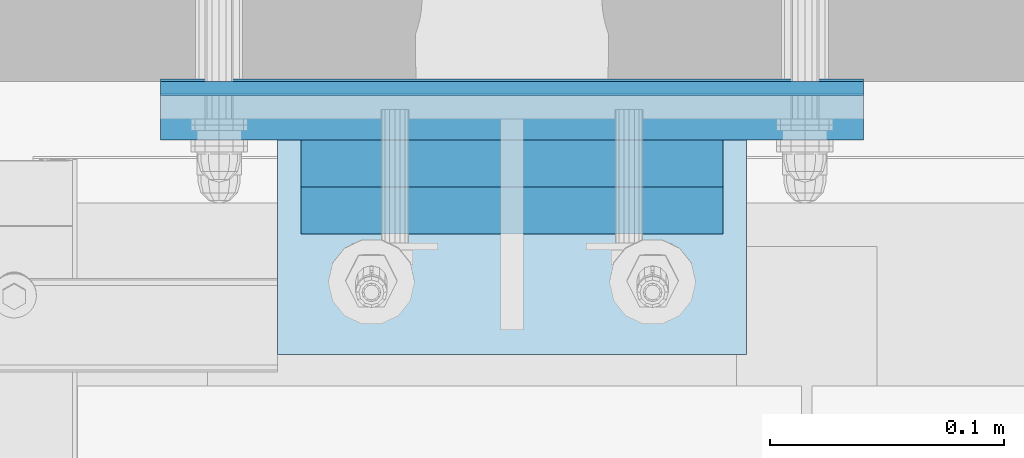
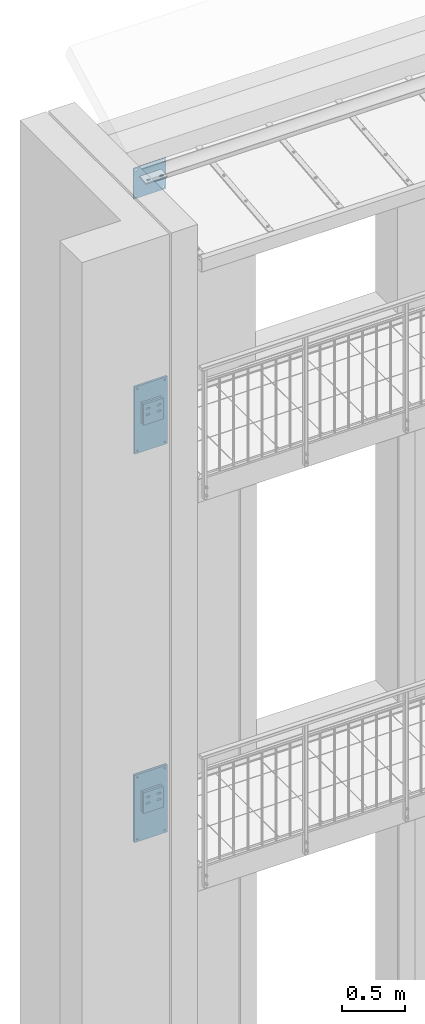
# One storey, part 60 of 162: 9 plates, 46 openings.
"""IFC2X3 building model written with IfcOpenShell, lengths in millimetres."""

from ifc_helpers import new_model, entity, si_unit, converted_unit, point, frame, frame_2d, origin, origin_with_axes, place, context, project, spatial, polyline, circle_curve, line_curve, trimmed, segment, composite_curve, circle, outline, extrude, material, layer, layer_set, element, save


model = new_model("IFC2X3")

# Units and contexts
model_context = context("Model", 3, precision=1e-09, world=origin_with_axes())
ifc_project = project(units=[si_unit("LENGTHUNIT", "METRE", prefix="MILLI"), si_unit("AREAUNIT", "SQUARE_METRE"), si_unit("VOLUMEUNIT", "CUBIC_METRE"), converted_unit("PLANEANGLEUNIT", "DEGREE", entity("IfcPlaneAngleMeasure", 0.01745329), si_unit("PLANEANGLEUNIT", "RADIAN"), dimensions=[0, 0, 0, 0, 0, 0, 0])], contexts=[model_context])

# Site, building, storey
site_placement = place(None, origin_with_axes())
site = spatial("IfcSite", under=ifc_project, at=site_placement, Name="Hermannstra?e 1a, 60318 Frankfurt", CompositionType="ELEMENT")
building_placement = place(site_placement, origin_with_axes())
building = spatial("IfcBuilding", under=site, at=building_placement, Name="Struktur 1", CompositionType="ELEMENT")
storey_placement = place(building_placement, origin_with_axes())
storey = spatial("IfcBuildingStorey", under=building, at=storey_placement, Name="Default Storey", CompositionType="ELEMENT", Elevation=0.0)

# Plate, openings
ifc_material_1 = material(Name="Thermostop")
ifc_layer_1 = layer(ifc_material_1, 6.0)
ifc_layer_set_1 = layer_set([ifc_layer_1], Name="Thermostop")
plate_1_placement = place(None, frame((2803.309364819, 2735.609373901, 17341.999), z_axis=(0.0, -1.0, 0.0), x_axis=(1.0, 0.0, 0.0)))
plate_1 = element("IfcPlate", 1, at=plate_1_placement, inside=storey, material=ifc_layer_set_1, Name="-", ObjectType="-", context=model_context, shape_type="SweptSolid", body=[
    extrude(outline(polyline([(-150.0, -150.0), (150.0, -150.0), (150.0, 150.0), (-150.0, 150.0), (-150.0, -150.0)])), origin_with_axes(), (0.0, 0.0, 1.0), 6.0),
])
opening_1_placement = place(plate_1_placement, frame((0.0, 0.0, -0.5), z_axis=(0.0, 0.0, 1.0), x_axis=(1.0, 0.0, 0.0)))
element("IfcOpeningElement", 2, at=opening_1_placement, cuts=plate_1, ObjectType="Opening", context=model_context, shape_type="SweptSolid", body=[
    extrude(circle(Radius=10.001, at=frame_2d((125.0, 125.0), x_axis=(1.0, 0.0))), origin(), (0.0, 0.0, 1.0), 7.0),
])
opening_2_placement = place(plate_1_placement, frame((0.0, 0.0, -0.5), z_axis=(0.0, 0.0, 1.0), x_axis=(1.0, 0.0, 0.0)))
element("IfcOpeningElement", 3, at=opening_2_placement, cuts=plate_1, ObjectType="Opening", context=model_context, shape_type="SweptSolid", body=[
    extrude(circle(Radius=10.001, at=frame_2d((-125.0, 125.0), x_axis=(1.0, 0.0))), origin(), (0.0, 0.0, 1.0), 7.0),
])
opening_3_placement = place(plate_1_placement, frame((0.0, 0.0, -0.5), z_axis=(0.0, 0.0, 1.0), x_axis=(1.0, 0.0, 0.0)))
element("IfcOpeningElement", 4, at=opening_3_placement, cuts=plate_1, ObjectType="Opening", context=model_context, shape_type="SweptSolid", body=[
    extrude(circle(Radius=10.001, at=frame_2d((125.0, -125.0), x_axis=(1.0, 0.0))), origin(), (0.0, 0.0, 1.0), 7.0),
])
opening_4_placement = place(plate_1_placement, frame((0.0, 0.0, -0.5), z_axis=(0.0, 0.0, 1.0), x_axis=(1.0, 0.0, 0.0)))
element("IfcOpeningElement", 5, at=opening_4_placement, cuts=plate_1, ObjectType="Opening", context=model_context, shape_type="SweptSolid", body=[
    extrude(circle(Radius=10.001, at=frame_2d((-125.0, -125.0), x_axis=(1.0, 0.0))), origin(), (0.0, 0.0, 1.0), 7.0),
])

ifc_material_2 = material(Name="S235JR")
ifc_layer_2 = layer(ifc_material_2, 10.0)
ifc_layer_set_2 = layer_set([ifc_layer_2], Name="S235JR")
plate_2_placement = place(None, frame((2803.309364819, 2669.883279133, 17390.856674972), z_axis=(0.0, -0.104528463, 0.994521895), x_axis=(1.0, 0.0, 0.0)))
plate_2 = element("IfcPlate", 6, at=plate_2_placement, inside=storey, material=ifc_layer_set_2, Name="-", ObjectType="-", context=model_context, shape_type="SweptSolid", body=[
    extrude(outline(polyline([(-100.0, -50.0), (100.0, -50.0), (100.0, 50.0), (-100.0, 50.0), (-100.0, -50.0)])), origin_with_axes(), (0.0, 0.0, 1.0), 10.0),
])
opening_5_placement = place(plate_2_placement, frame((0.0, -20.0, -0.5), z_axis=(0.0, 0.0, 1.0), x_axis=(1.0, 0.0, 0.0)))
element("IfcOpeningElement", 7, at=opening_5_placement, cuts=plate_2, ObjectType="Opening", context=model_context, shape_type="SweptSolid", body=[
    extrude(circle(Radius=7.501, at=frame_2d((60.0, 0.0), x_axis=(1.0, 0.0))), origin(), (0.0, 0.0, 1.0), 11.0),
])
opening_6_placement = place(plate_2_placement, frame((0.0, -20.0, -0.5), z_axis=(0.0, 0.0, 1.0), x_axis=(1.0, 0.0, 0.0)))
element("IfcOpeningElement", 8, at=opening_6_placement, cuts=plate_2, ObjectType="Opening", context=model_context, shape_type="SweptSolid", body=[
    extrude(circle(Radius=7.501, at=frame_2d((-60.0, 0.0), x_axis=(1.0, 0.0))), origin(), (0.0, 0.0, 1.0), 11.0),
])
opening_7_placement = place(plate_2_placement, frame((-60.0, -20.0, -0.5), z_axis=(0.0, 0.0, 1.0), x_axis=(1.0, 0.0, 0.0)))
element("IfcOpeningElement", 9, at=opening_7_placement, cuts=plate_2, ObjectType="Opening", context=model_context, shape_type="SweptSolid", body=[
    extrude(outline(composite_curve([segment(trimmed(line_curve((110.5, -8.001), (1.0, 0.0), 19.0), [point((110.5, -8.001))], [point((129.5, -8.001))], True, "CARTESIAN"), True, "CONTINUOUS"), segment(trimmed(circle_curve(frame_2d((129.5, 0.0), x_axis=(1.0, 0.0)), 8.001), [point((129.5, -8.001))], [point((129.5, 8.001))], True, "CARTESIAN"), True, "CONTINUOUS"), segment(trimmed(line_curve((129.5, 8.001), (-1.0, 0.0), 19.0), [point((129.5, 8.001))], [point((110.5, 8.001))], True, "CARTESIAN"), True, "CONTINUOUS"), segment(trimmed(circle_curve(frame_2d((110.5, 0.0), x_axis=(1.0, 0.0)), 8.001), [point((110.5, 8.001))], [point((110.5, -8.001))], True, "CARTESIAN"), True, "CONTINUOUS")], self_intersect=False)), origin(), (0.0, 0.0, 1.0), 11.0),
])
opening_8_placement = place(plate_2_placement, frame((-60.0, -20.0, -0.5), z_axis=(0.0, 0.0, 1.0), x_axis=(1.0, 0.0, 0.0)))
element("IfcOpeningElement", 10, at=opening_8_placement, cuts=plate_2, ObjectType="Opening", context=model_context, shape_type="SweptSolid", body=[
    extrude(outline(composite_curve([segment(trimmed(line_curve((-9.5, -8.001), (1.0, 0.0), 19.0), [point((-9.5, -8.001))], [point((9.5, -8.001))], True, "CARTESIAN"), True, "CONTINUOUS"), segment(trimmed(circle_curve(frame_2d((9.5, 0.0), x_axis=(1.0, 0.0)), 8.001), [point((9.5, -8.001))], [point((9.5, 8.001))], True, "CARTESIAN"), True, "CONTINUOUS"), segment(trimmed(line_curve((9.5, 8.001), (-1.0, 0.0), 19.0), [point((9.5, 8.001))], [point((-9.5, 8.001))], True, "CARTESIAN"), True, "CONTINUOUS"), segment(trimmed(circle_curve(frame_2d((-9.5, 0.0), x_axis=(1.0, 0.0)), 8.001), [point((-9.5, 8.001))], [point((-9.5, -8.001))], True, "CARTESIAN"), True, "CONTINUOUS")], self_intersect=False)), origin(), (0.0, 0.0, 1.0), 11.0),
])

plate_3_placement = place(None, frame((2803.309364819, 2736.609373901, 11304.999), z_axis=(0.0, -1.0, 0.0), x_axis=(1.0, 0.0, 0.0)))
plate_3 = element("IfcPlate", 11, at=plate_3_placement, inside=storey, material=ifc_layer_set_1, Name="-", ObjectType="-", context=model_context, shape_type="SweptSolid", body=[
    extrude(outline(polyline([(-150.0, -325.0), (150.0, -325.0), (150.0, 325.0), (-150.0, 325.0), (-150.0, -325.0)])), origin_with_axes(), (0.0, 0.0, 1.0), 6.0),
])
opening_9_placement = place(plate_3_placement, frame((0.0, 0.0, -0.5), z_axis=(0.0, 0.0, 1.0), x_axis=(1.0, 0.0, 0.0)))
element("IfcOpeningElement", 12, at=opening_9_placement, cuts=plate_3, ObjectType="Opening", context=model_context, shape_type="SweptSolid", body=[
    extrude(circle(Radius=10.001, at=frame_2d((125.0, 300.0), x_axis=(1.0, 0.0))), origin(), (0.0, 0.0, 1.0), 7.0),
])
opening_10_placement = place(plate_3_placement, frame((0.0, 0.0, -0.5), z_axis=(0.0, 0.0, 1.0), x_axis=(1.0, 0.0, 0.0)))
element("IfcOpeningElement", 13, at=opening_10_placement, cuts=plate_3, ObjectType="Opening", context=model_context, shape_type="SweptSolid", body=[
    extrude(circle(Radius=10.001, at=frame_2d((-125.0, 300.0), x_axis=(1.0, 0.0))), origin(), (0.0, 0.0, 1.0), 7.0),
])
opening_11_placement = place(plate_3_placement, frame((0.0, 0.0, -0.5), z_axis=(0.0, 0.0, 1.0), x_axis=(1.0, 0.0, 0.0)))
element("IfcOpeningElement", 14, at=opening_11_placement, cuts=plate_3, ObjectType="Opening", context=model_context, shape_type="SweptSolid", body=[
    extrude(circle(Radius=10.001, at=frame_2d((125.0, -300.0), x_axis=(1.0, 0.0))), origin(), (0.0, 0.0, 1.0), 7.0),
])
opening_12_placement = place(plate_3_placement, frame((0.0, 0.0, -0.5), z_axis=(0.0, 0.0, 1.0), x_axis=(1.0, 0.0, 0.0)))
element("IfcOpeningElement", 15, at=opening_12_placement, cuts=plate_3, ObjectType="Opening", context=model_context, shape_type="SweptSolid", body=[
    extrude(circle(Radius=10.001, at=frame_2d((-125.0, -300.0), x_axis=(1.0, 0.0))), origin(), (0.0, 0.0, 1.0), 7.0),
])
opening_13_placement = place(plate_3_placement, frame((0.0, -40.0, -0.5), z_axis=(0.0, 0.0, 1.0), x_axis=(1.0, 0.0, 0.0)))
element("IfcOpeningElement", 16, at=opening_13_placement, cuts=plate_3, ObjectType="Opening", context=model_context, shape_type="SweptSolid", body=[
    extrude(circle(Radius=11.001, at=frame_2d((50.0, 150.0), x_axis=(1.0, 0.0))), origin(), (0.0, 0.0, 1.0), 7.0),
])
opening_14_placement = place(plate_3_placement, frame((0.0, -40.0, -0.5), z_axis=(0.0, 0.0, 1.0), x_axis=(1.0, 0.0, 0.0)))
element("IfcOpeningElement", 17, at=opening_14_placement, cuts=plate_3, ObjectType="Opening", context=model_context, shape_type="SweptSolid", body=[
    extrude(circle(Radius=11.001, at=frame_2d((-50.0, 150.0), x_axis=(1.0, 0.0))), origin(), (0.0, 0.0, 1.0), 7.0),
])
opening_15_placement = place(plate_3_placement, frame((0.0, -40.0, -0.5), z_axis=(0.0, 0.0, 1.0), x_axis=(1.0, 0.0, 0.0)))
element("IfcOpeningElement", 18, at=opening_15_placement, cuts=plate_3, ObjectType="Opening", context=model_context, shape_type="SweptSolid", body=[
    extrude(circle(Radius=11.001, at=frame_2d((50.0, 90.0), x_axis=(1.0, 0.0))), origin(), (0.0, 0.0, 1.0), 7.0),
])
opening_16_placement = place(plate_3_placement, frame((0.0, -40.0, -0.5), z_axis=(0.0, 0.0, 1.0), x_axis=(1.0, 0.0, 0.0)))
element("IfcOpeningElement", 19, at=opening_16_placement, cuts=plate_3, ObjectType="Opening", context=model_context, shape_type="SweptSolid", body=[
    extrude(circle(Radius=11.001, at=frame_2d((-50.0, 90.0), x_axis=(1.0, 0.0))), origin(), (0.0, 0.0, 1.0), 7.0),
])
opening_17_placement = place(plate_3_placement, frame((0.0, -125.0, -0.5), z_axis=(0.0, 0.0, 1.0), x_axis=(1.0, 0.0, 0.0)))
element("IfcOpeningElement", 20, at=opening_17_placement, cuts=plate_3, ObjectType="Opening", context=model_context, shape_type="SweptSolid", body=[
    extrude(circle(Radius=50.001, at=frame_2d((0.0, -10.0), x_axis=(1.0, 0.0))), origin(), (0.0, 0.0, 1.0), 7.0),
])
opening_18_placement = place(plate_3_placement, frame((0.0, -325.0, -0.5), z_axis=(0.0, 0.0, 1.0), x_axis=(1.0, 0.0, 0.0)))
element("IfcOpeningElement", 21, at=opening_18_placement, cuts=plate_3, ObjectType="Opening", context=model_context, shape_type="SweptSolid", body=[
    extrude(circle(Radius=15.001, at=frame_2d((0.0, 310.0), x_axis=(1.0, 0.0))), origin(), (0.0, 0.0, 1.0), 7.0),
])

ifc_layer_3 = layer(ifc_material_2, 20.0)
ifc_layer_set_3 = layer_set([ifc_layer_3], Name="S235JR")
plate_4_placement = place(None, frame((2803.309364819, 2730.609373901, 11304.999), z_axis=(0.0, -1.0, 0.0), x_axis=(1.0, 0.0, 0.0)))
plate_4 = element("IfcPlate", 22, at=plate_4_placement, inside=storey, material=ifc_layer_set_3, Name="-", ObjectType="-", context=model_context, shape_type="SweptSolid", body=[
    extrude(outline(polyline([(-150.0, -325.0), (150.0, -325.0), (150.0, 325.0), (-150.0, 325.0), (-150.0, -325.0)])), origin_with_axes(), (0.0, 0.0, 1.0), 20.0),
])
opening_19_placement = place(plate_4_placement, frame((0.0, 0.0, -0.5), z_axis=(0.0, 0.0, 1.0), x_axis=(1.0, 0.0, 0.0)))
element("IfcOpeningElement", 23, at=opening_19_placement, cuts=plate_4, ObjectType="Opening", context=model_context, shape_type="SweptSolid", body=[
    extrude(circle(Radius=8.001, at=frame_2d((125.0, 300.0), x_axis=(1.0, 0.0))), origin(), (0.0, 0.0, 1.0), 21.0),
])
opening_20_placement = place(plate_4_placement, frame((0.0, 0.0, -0.5), z_axis=(0.0, 0.0, 1.0), x_axis=(1.0, 0.0, 0.0)))
element("IfcOpeningElement", 24, at=opening_20_placement, cuts=plate_4, ObjectType="Opening", context=model_context, shape_type="SweptSolid", body=[
    extrude(circle(Radius=8.001, at=frame_2d((-125.0, 300.0), x_axis=(1.0, 0.0))), origin(), (0.0, 0.0, 1.0), 21.0),
])
opening_21_placement = place(plate_4_placement, frame((0.0, 0.0, -0.5), z_axis=(0.0, 0.0, 1.0), x_axis=(1.0, 0.0, 0.0)))
element("IfcOpeningElement", 25, at=opening_21_placement, cuts=plate_4, ObjectType="Opening", context=model_context, shape_type="SweptSolid", body=[
    extrude(circle(Radius=8.001, at=frame_2d((125.0, -300.0), x_axis=(1.0, 0.0))), origin(), (0.0, 0.0, 1.0), 21.0),
])
opening_22_placement = place(plate_4_placement, frame((0.0, 0.0, -0.5), z_axis=(0.0, 0.0, 1.0), x_axis=(1.0, 0.0, 0.0)))
element("IfcOpeningElement", 26, at=opening_22_placement, cuts=plate_4, ObjectType="Opening", context=model_context, shape_type="SweptSolid", body=[
    extrude(circle(Radius=8.001, at=frame_2d((-125.0, -300.0), x_axis=(1.0, 0.0))), origin(), (0.0, 0.0, 1.0), 21.0),
])
opening_23_placement = place(plate_4_placement, frame((0.0, 325.0, -0.5), z_axis=(0.0, 0.0, 1.0), x_axis=(1.0, 0.0, 0.0)))
element("IfcOpeningElement", 27, at=opening_23_placement, cuts=plate_4, ObjectType="Opening", context=model_context, shape_type="SweptSolid", body=[
    extrude(circle(Radius=11.001, at=frame_2d((50.0, -215.0), x_axis=(1.0, 0.0))), origin(), (0.0, 0.0, 1.0), 21.0),
])
opening_24_placement = place(plate_4_placement, frame((0.0, 325.0, -0.5), z_axis=(0.0, 0.0, 1.0), x_axis=(1.0, 0.0, 0.0)))
element("IfcOpeningElement", 28, at=opening_24_placement, cuts=plate_4, ObjectType="Opening", context=model_context, shape_type="SweptSolid", body=[
    extrude(circle(Radius=11.001, at=frame_2d((-50.0, -215.0), x_axis=(1.0, 0.0))), origin(), (0.0, 0.0, 1.0), 21.0),
])
opening_25_placement = place(plate_4_placement, frame((0.0, 325.0, -0.5), z_axis=(0.0, 0.0, 1.0), x_axis=(1.0, 0.0, 0.0)))
element("IfcOpeningElement", 29, at=opening_25_placement, cuts=plate_4, ObjectType="Opening", context=model_context, shape_type="SweptSolid", body=[
    extrude(circle(Radius=11.001, at=frame_2d((50.0, -275.0), x_axis=(1.0, 0.0))), origin(), (0.0, 0.0, 1.0), 21.0),
])
opening_26_placement = place(plate_4_placement, frame((0.0, 325.0, -0.5), z_axis=(0.0, 0.0, 1.0), x_axis=(1.0, 0.0, 0.0)))
element("IfcOpeningElement", 30, at=opening_26_placement, cuts=plate_4, ObjectType="Opening", context=model_context, shape_type="SweptSolid", body=[
    extrude(circle(Radius=11.001, at=frame_2d((-50.0, -275.0), x_axis=(1.0, 0.0))), origin(), (0.0, 0.0, 1.0), 21.0),
])
opening_27_placement = place(plate_4_placement, frame((0.0, -5.0, -0.5), z_axis=(0.0, 0.0, 1.0), x_axis=(1.0, 0.0, 0.0)))
element("IfcOpeningElement", 31, at=opening_27_placement, cuts=plate_4, ObjectType="Opening", context=model_context, shape_type="SweptSolid", body=[
    extrude(circle(Radius=15.001, at=frame_2d((0.0, -10.0), x_axis=(1.0, 0.0))), origin(), (0.0, 0.0, 1.0), 21.0),
])

# Plate, opening
plate_5_placement = place(None, frame((2803.309364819, 2710.609373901, 11364.999), z_axis=(0.0, -1.0, 0.0), x_axis=(1.0, 0.0, 0.0)))
plate_5 = element("IfcPlate", 32, at=plate_5_placement, inside=storey, material=ifc_layer_set_3, Name="-", ObjectType="-", context=model_context, shape_type="SweptSolid", body=[
    extrude(outline(polyline([(-90.0, -100.0), (90.0, -100.0), (90.0, 100.0), (-90.0, 100.0), (-90.0, -100.0)])), origin_with_axes(), (0.0, 0.0, 1.0), 20.0),
])
opening_28_placement = place(plate_5_placement, frame((0.0, -65.0, -0.5), z_axis=(0.0, 0.0, 1.0), x_axis=(1.0, 0.0, 0.0)))
element("IfcOpeningElement", 33, at=opening_28_placement, cuts=plate_5, ObjectType="Opening", context=model_context, shape_type="SweptSolid", body=[
    extrude(circle(Radius=15.001, at=frame_2d((0.0, -10.0), x_axis=(1.0, 0.0))), origin(), (0.0, 0.0, 1.0), 21.0),
])

# Plate, openings
plate_6_placement = place(None, frame((2803.309364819, 2690.609373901, 11364.999), z_axis=(0.0, -1.0, 0.0), x_axis=(1.0, 0.0, 0.0)))
plate_6 = element("IfcPlate", 34, at=plate_6_placement, inside=storey, material=ifc_layer_set_3, Name="-", ObjectType="-", context=model_context, shape_type="SweptSolid", body=[
    extrude(outline(polyline([(-90.0, -100.0), (90.0, -100.0), (90.0, 100.0), (-90.0, 100.0), (-90.0, -100.0)])), origin_with_axes(), (0.0, 0.0, 1.0), 20.0),
])
opening_29_placement = place(plate_6_placement, frame((-2e-08, 19.999999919, -0.5), z_axis=(0.0, 0.0, 1.0), x_axis=(1.0, 0.0, 0.0)))
element("IfcOpeningElement", 35, at=opening_29_placement, cuts=plate_6, ObjectType="Opening", context=model_context, shape_type="SweptSolid", body=[
    extrude(outline(composite_curve([segment(trimmed(line_curve((41.5, 20.999), (1.0, 0.0), 17.0), [point((41.5, 20.999))], [point((58.5, 20.999))], True, "CARTESIAN"), True, "CONTINUOUS"), segment(trimmed(circle_curve(frame_2d((58.5, 30.0), x_axis=(1.0, 0.0)), 9.001), [point((58.5, 20.999))], [point((58.5, 39.001))], True, "CARTESIAN"), True, "CONTINUOUS"), segment(trimmed(line_curve((58.5, 39.001), (-1.0, 0.0), 17.0), [point((58.5, 39.001))], [point((41.5, 39.001))], True, "CARTESIAN"), True, "CONTINUOUS"), segment(trimmed(circle_curve(frame_2d((41.5, 30.0), x_axis=(1.0, 0.0)), 9.001), [point((41.5, 39.001))], [point((41.5, 20.999))], True, "CARTESIAN"), True, "CONTINUOUS")], self_intersect=False)), origin(), (0.0, 0.0, 1.0), 21.0),
])
opening_30_placement = place(plate_6_placement, frame((-2e-08, 19.999999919, -0.5), z_axis=(0.0, 0.0, 1.0), x_axis=(1.0, 0.0, 0.0)))
element("IfcOpeningElement", 36, at=opening_30_placement, cuts=plate_6, ObjectType="Opening", context=model_context, shape_type="SweptSolid", body=[
    extrude(outline(composite_curve([segment(trimmed(line_curve((-58.5, 20.999), (1.0, 0.0), 17.0), [point((-58.5, 20.999))], [point((-41.5, 20.999))], True, "CARTESIAN"), True, "CONTINUOUS"), segment(trimmed(circle_curve(frame_2d((-41.5, 30.0), x_axis=(1.0, 0.0)), 9.001), [point((-41.5, 20.999))], [point((-41.5, 39.001))], True, "CARTESIAN"), True, "CONTINUOUS"), segment(trimmed(line_curve((-41.5, 39.001), (-1.0, 0.0), 17.0), [point((-41.5, 39.001))], [point((-58.5, 39.001))], True, "CARTESIAN"), True, "CONTINUOUS"), segment(trimmed(circle_curve(frame_2d((-58.5, 30.0), x_axis=(1.0, 0.0)), 9.001), [point((-58.5, 39.001))], [point((-58.5, 20.999))], True, "CARTESIAN"), True, "CONTINUOUS")], self_intersect=False)), origin(), (0.0, 0.0, 1.0), 21.0),
])
opening_31_placement = place(plate_6_placement, frame((-2e-08, 19.999999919, -0.5), z_axis=(0.0, 0.0, 1.0), x_axis=(1.0, 0.0, 0.0)))
element("IfcOpeningElement", 37, at=opening_31_placement, cuts=plate_6, ObjectType="Opening", context=model_context, shape_type="SweptSolid", body=[
    extrude(outline(composite_curve([segment(trimmed(line_curve((41.5, -39.001), (1.0, 0.0), 17.0), [point((41.5, -39.001))], [point((58.5, -39.001))], True, "CARTESIAN"), True, "CONTINUOUS"), segment(trimmed(circle_curve(frame_2d((58.5, -30.0), x_axis=(1.0, 0.0)), 9.001), [point((58.5, -39.001))], [point((58.5, -20.999))], True, "CARTESIAN"), True, "CONTINUOUS"), segment(trimmed(line_curve((58.5, -20.999), (-1.0, 0.0), 17.0), [point((58.5, -20.999))], [point((41.5, -20.999))], True, "CARTESIAN"), True, "CONTINUOUS"), segment(trimmed(circle_curve(frame_2d((41.5, -30.0), x_axis=(1.0, 0.0)), 9.001), [point((41.5, -20.999))], [point((41.5, -39.001))], True, "CARTESIAN"), True, "CONTINUOUS")], self_intersect=False)), origin(), (0.0, 0.0, 1.0), 21.0),
])
opening_32_placement = place(plate_6_placement, frame((-2e-08, 19.999999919, -0.5), z_axis=(0.0, 0.0, 1.0), x_axis=(1.0, 0.0, 0.0)))
element("IfcOpeningElement", 38, at=opening_32_placement, cuts=plate_6, ObjectType="Opening", context=model_context, shape_type="SweptSolid", body=[
    extrude(outline(composite_curve([segment(trimmed(line_curve((-58.5, -39.001), (1.0, 0.0), 17.0), [point((-58.5, -39.001))], [point((-41.5, -39.001))], True, "CARTESIAN"), True, "CONTINUOUS"), segment(trimmed(circle_curve(frame_2d((-41.5, -30.0), x_axis=(1.0, 0.0)), 9.001), [point((-41.5, -39.001))], [point((-41.5, -20.999))], True, "CARTESIAN"), True, "CONTINUOUS"), segment(trimmed(line_curve((-41.5, -20.999), (-1.0, 0.0), 17.0), [point((-41.5, -20.999))], [point((-58.5, -20.999))], True, "CARTESIAN"), True, "CONTINUOUS"), segment(trimmed(circle_curve(frame_2d((-58.5, -30.0), x_axis=(1.0, 0.0)), 9.001), [point((-58.5, -20.999))], [point((-58.5, -39.001))], True, "CARTESIAN"), True, "CONTINUOUS")], self_intersect=False)), origin(), (0.0, 0.0, 1.0), 21.0),
])

# Plate, opening
plate_7_placement = place(None, frame((2803.310071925, 2710.610081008, 15121.999), z_axis=(0.0, -1.0, 0.0), x_axis=(1.0, 0.0, 0.0)))
plate_7 = element("IfcPlate", 39, at=plate_7_placement, inside=storey, material=ifc_layer_set_3, Name="-", ObjectType="-", context=model_context, shape_type="SweptSolid", body=[
    extrude(outline(polyline([(-90.0, -100.0), (90.0, -100.0), (90.0, 100.0), (-90.0, 100.0), (-90.0, -100.0)])), origin_with_axes(), (0.0, 0.0, 1.0), 20.0),
])
opening_33_placement = place(plate_7_placement, frame((0.0, -65.0, -0.5), z_axis=(0.0, 0.0, 1.0), x_axis=(1.0, 0.0, 0.0)))
element("IfcOpeningElement", 40, at=opening_33_placement, cuts=plate_7, ObjectType="Opening", context=model_context, shape_type="SweptSolid", body=[
    extrude(circle(Radius=15.001, at=frame_2d((0.0, -10.0), x_axis=(1.0, 0.0))), origin(), (0.0, 0.0, 1.0), 21.0),
])

# Plate, openings
plate_8_placement = place(None, frame((2803.310071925, 2690.610081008, 15121.999), z_axis=(0.0, -1.0, 0.0), x_axis=(1.0, 0.0, 0.0)))
plate_8 = element("IfcPlate", 41, at=plate_8_placement, inside=storey, material=ifc_layer_set_3, Name="-", ObjectType="-", context=model_context, shape_type="SweptSolid", body=[
    extrude(outline(polyline([(-90.0, -100.0), (90.0, -100.0), (90.0, 100.0), (-90.0, 100.0), (-90.0, -100.0)])), origin_with_axes(), (0.0, 0.0, 1.0), 20.0),
])
opening_34_placement = place(plate_8_placement, frame((-2e-08, 19.999999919, -0.5), z_axis=(0.0, 0.0, 1.0), x_axis=(1.0, 0.0, 0.0)))
element("IfcOpeningElement", 42, at=opening_34_placement, cuts=plate_8, ObjectType="Opening", context=model_context, shape_type="SweptSolid", body=[
    extrude(outline(composite_curve([segment(trimmed(line_curve((41.5, 20.999), (1.0, 0.0), 17.0), [point((41.5, 20.999))], [point((58.5, 20.999))], True, "CARTESIAN"), True, "CONTINUOUS"), segment(trimmed(circle_curve(frame_2d((58.5, 30.0), x_axis=(1.0, 0.0)), 9.001), [point((58.5, 20.999))], [point((58.5, 39.001))], True, "CARTESIAN"), True, "CONTINUOUS"), segment(trimmed(line_curve((58.5, 39.001), (-1.0, 0.0), 17.0), [point((58.5, 39.001))], [point((41.5, 39.001))], True, "CARTESIAN"), True, "CONTINUOUS"), segment(trimmed(circle_curve(frame_2d((41.5, 30.0), x_axis=(1.0, 0.0)), 9.001), [point((41.5, 39.001))], [point((41.5, 20.999))], True, "CARTESIAN"), True, "CONTINUOUS")], self_intersect=False)), origin(), (0.0, 0.0, 1.0), 21.0),
])
opening_35_placement = place(plate_8_placement, frame((-2e-08, 19.999999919, -0.5), z_axis=(0.0, 0.0, 1.0), x_axis=(1.0, 0.0, 0.0)))
element("IfcOpeningElement", 43, at=opening_35_placement, cuts=plate_8, ObjectType="Opening", context=model_context, shape_type="SweptSolid", body=[
    extrude(outline(composite_curve([segment(trimmed(line_curve((-58.5, 20.999), (1.0, 0.0), 17.0), [point((-58.5, 20.999))], [point((-41.5, 20.999))], True, "CARTESIAN"), True, "CONTINUOUS"), segment(trimmed(circle_curve(frame_2d((-41.5, 30.0), x_axis=(1.0, 0.0)), 9.001), [point((-41.5, 20.999))], [point((-41.5, 39.001))], True, "CARTESIAN"), True, "CONTINUOUS"), segment(trimmed(line_curve((-41.5, 39.001), (-1.0, 0.0), 17.0), [point((-41.5, 39.001))], [point((-58.5, 39.001))], True, "CARTESIAN"), True, "CONTINUOUS"), segment(trimmed(circle_curve(frame_2d((-58.5, 30.0), x_axis=(1.0, 0.0)), 9.001), [point((-58.5, 39.001))], [point((-58.5, 20.999))], True, "CARTESIAN"), True, "CONTINUOUS")], self_intersect=False)), origin(), (0.0, 0.0, 1.0), 21.0),
])
opening_36_placement = place(plate_8_placement, frame((-2e-08, 19.999999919, -0.5), z_axis=(0.0, 0.0, 1.0), x_axis=(1.0, 0.0, 0.0)))
element("IfcOpeningElement", 44, at=opening_36_placement, cuts=plate_8, ObjectType="Opening", context=model_context, shape_type="SweptSolid", body=[
    extrude(outline(composite_curve([segment(trimmed(line_curve((41.5, -39.001), (1.0, 0.0), 17.0), [point((41.5, -39.001))], [point((58.5, -39.001))], True, "CARTESIAN"), True, "CONTINUOUS"), segment(trimmed(circle_curve(frame_2d((58.5, -30.0), x_axis=(1.0, 0.0)), 9.001), [point((58.5, -39.001))], [point((58.5, -20.999))], True, "CARTESIAN"), True, "CONTINUOUS"), segment(trimmed(line_curve((58.5, -20.999), (-1.0, 0.0), 17.0), [point((58.5, -20.999))], [point((41.5, -20.999))], True, "CARTESIAN"), True, "CONTINUOUS"), segment(trimmed(circle_curve(frame_2d((41.5, -30.0), x_axis=(1.0, 0.0)), 9.001), [point((41.5, -20.999))], [point((41.5, -39.001))], True, "CARTESIAN"), True, "CONTINUOUS")], self_intersect=False)), origin(), (0.0, 0.0, 1.0), 21.0),
])
opening_37_placement = place(plate_8_placement, frame((-2e-08, 19.999999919, -0.5), z_axis=(0.0, 0.0, 1.0), x_axis=(1.0, 0.0, 0.0)))
element("IfcOpeningElement", 45, at=opening_37_placement, cuts=plate_8, ObjectType="Opening", context=model_context, shape_type="SweptSolid", body=[
    extrude(outline(composite_curve([segment(trimmed(line_curve((-58.5, -39.001), (1.0, 0.0), 17.0), [point((-58.5, -39.001))], [point((-41.5, -39.001))], True, "CARTESIAN"), True, "CONTINUOUS"), segment(trimmed(circle_curve(frame_2d((-41.5, -30.0), x_axis=(1.0, 0.0)), 9.001), [point((-41.5, -39.001))], [point((-41.5, -20.999))], True, "CARTESIAN"), True, "CONTINUOUS"), segment(trimmed(line_curve((-41.5, -20.999), (-1.0, 0.0), 17.0), [point((-41.5, -20.999))], [point((-58.5, -20.999))], True, "CARTESIAN"), True, "CONTINUOUS"), segment(trimmed(circle_curve(frame_2d((-58.5, -30.0), x_axis=(1.0, 0.0)), 9.001), [point((-58.5, -20.999))], [point((-58.5, -39.001))], True, "CARTESIAN"), True, "CONTINUOUS")], self_intersect=False)), origin(), (0.0, 0.0, 1.0), 21.0),
])

plate_9_placement = place(None, frame((2803.310071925, 2730.610081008, 15061.999), z_axis=(0.0, -1.0, 0.0), x_axis=(1.0, 0.0, 0.0)))
plate_9 = element("IfcPlate", 46, at=plate_9_placement, inside=storey, material=ifc_layer_set_3, Name="-", ObjectType="-", context=model_context, shape_type="SweptSolid", body=[
    extrude(outline(polyline([(-150.0, -325.0), (150.0, -325.0), (150.0, 325.0), (-150.0, 325.0), (-150.0, -325.0)])), origin_with_axes(), (0.0, 0.0, 1.0), 20.0),
])
opening_38_placement = place(plate_9_placement, frame((0.0, 0.0, -0.5), z_axis=(0.0, 0.0, 1.0), x_axis=(1.0, 0.0, 0.0)))
element("IfcOpeningElement", 47, at=opening_38_placement, cuts=plate_9, ObjectType="Opening", context=model_context, shape_type="SweptSolid", body=[
    extrude(circle(Radius=8.001, at=frame_2d((125.0, 300.0), x_axis=(1.0, 0.0))), origin(), (0.0, 0.0, 1.0), 21.0),
])
opening_39_placement = place(plate_9_placement, frame((0.0, 0.0, -0.5), z_axis=(0.0, 0.0, 1.0), x_axis=(1.0, 0.0, 0.0)))
element("IfcOpeningElement", 48, at=opening_39_placement, cuts=plate_9, ObjectType="Opening", context=model_context, shape_type="SweptSolid", body=[
    extrude(circle(Radius=8.001, at=frame_2d((-125.0, 300.0), x_axis=(1.0, 0.0))), origin(), (0.0, 0.0, 1.0), 21.0),
])
opening_40_placement = place(plate_9_placement, frame((0.0, 0.0, -0.5), z_axis=(0.0, 0.0, 1.0), x_axis=(1.0, 0.0, 0.0)))
element("IfcOpeningElement", 49, at=opening_40_placement, cuts=plate_9, ObjectType="Opening", context=model_context, shape_type="SweptSolid", body=[
    extrude(circle(Radius=8.001, at=frame_2d((125.0, -300.0), x_axis=(1.0, 0.0))), origin(), (0.0, 0.0, 1.0), 21.0),
])
opening_41_placement = place(plate_9_placement, frame((0.0, 0.0, -0.5), z_axis=(0.0, 0.0, 1.0), x_axis=(1.0, 0.0, 0.0)))
element("IfcOpeningElement", 50, at=opening_41_placement, cuts=plate_9, ObjectType="Opening", context=model_context, shape_type="SweptSolid", body=[
    extrude(circle(Radius=8.001, at=frame_2d((-125.0, -300.0), x_axis=(1.0, 0.0))), origin(), (0.0, 0.0, 1.0), 21.0),
])
opening_42_placement = place(plate_9_placement, frame((0.0, 325.0, -0.5), z_axis=(0.0, 0.0, 1.0), x_axis=(1.0, 0.0, 0.0)))
element("IfcOpeningElement", 51, at=opening_42_placement, cuts=plate_9, ObjectType="Opening", context=model_context, shape_type="SweptSolid", body=[
    extrude(circle(Radius=11.001, at=frame_2d((50.0, -215.0), x_axis=(1.0, 0.0))), origin(), (0.0, 0.0, 1.0), 21.0),
])
opening_43_placement = place(plate_9_placement, frame((0.0, 325.0, -0.5), z_axis=(0.0, 0.0, 1.0), x_axis=(1.0, 0.0, 0.0)))
element("IfcOpeningElement", 52, at=opening_43_placement, cuts=plate_9, ObjectType="Opening", context=model_context, shape_type="SweptSolid", body=[
    extrude(circle(Radius=11.001, at=frame_2d((-50.0, -215.0), x_axis=(1.0, 0.0))), origin(), (0.0, 0.0, 1.0), 21.0),
])
opening_44_placement = place(plate_9_placement, frame((0.0, 325.0, -0.5), z_axis=(0.0, 0.0, 1.0), x_axis=(1.0, 0.0, 0.0)))
element("IfcOpeningElement", 53, at=opening_44_placement, cuts=plate_9, ObjectType="Opening", context=model_context, shape_type="SweptSolid", body=[
    extrude(circle(Radius=11.001, at=frame_2d((50.0, -275.0), x_axis=(1.0, 0.0))), origin(), (0.0, 0.0, 1.0), 21.0),
])
opening_45_placement = place(plate_9_placement, frame((0.0, 325.0, -0.5), z_axis=(0.0, 0.0, 1.0), x_axis=(1.0, 0.0, 0.0)))
element("IfcOpeningElement", 54, at=opening_45_placement, cuts=plate_9, ObjectType="Opening", context=model_context, shape_type="SweptSolid", body=[
    extrude(circle(Radius=11.001, at=frame_2d((-50.0, -275.0), x_axis=(1.0, 0.0))), origin(), (0.0, 0.0, 1.0), 21.0),
])
opening_46_placement = place(plate_9_placement, frame((0.0, -5.0, -0.5), z_axis=(0.0, 0.0, 1.0), x_axis=(1.0, 0.0, 0.0)))
element("IfcOpeningElement", 55, at=opening_46_placement, cuts=plate_9, ObjectType="Opening", context=model_context, shape_type="SweptSolid", body=[
    extrude(circle(Radius=15.001, at=frame_2d((0.0, -10.0), x_axis=(1.0, 0.0))), origin(), (0.0, 0.0, 1.0), 21.0),
])

save(model, "model.ifc")
